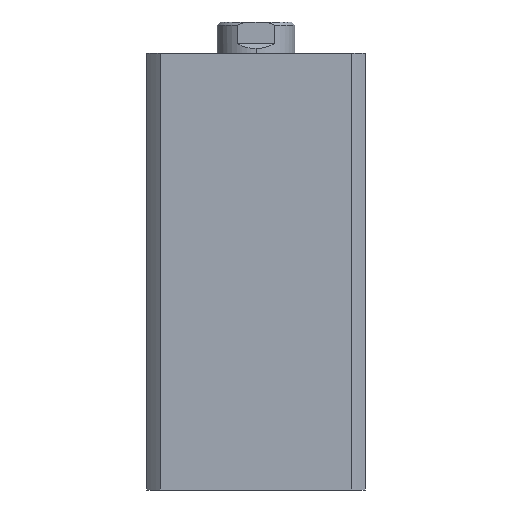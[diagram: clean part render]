
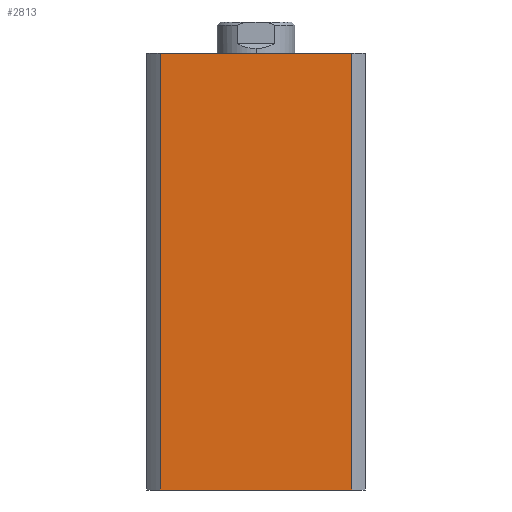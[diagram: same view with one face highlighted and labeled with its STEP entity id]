
A CAD part, left-side view. The second image highlights one B-rep face of the part: STEP entity #2813.
In plain terms, the highlighted planar face has unit normal (-1, 0, 0).
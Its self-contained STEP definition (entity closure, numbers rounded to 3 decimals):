
#185 = VERTEX_POINT ( 'NONE', #3022 ) ;
#400 = FACE_OUTER_BOUND ( 'NONE', #4704, .T. ) ;
#510 = LINE ( 'NONE', #790, #516 ) ;
#514 = LINE ( 'NONE', #789, #520 ) ;
#515 = LINE ( 'NONE', #794, #518 ) ;
#516 = VECTOR ( 'NONE', #786, 1000. ) ;
#518 = VECTOR ( 'NONE', #796, 1000. ) ;
#520 = VECTOR ( 'NONE', #797, 1000. ) ;
#560 = LINE ( 'NONE', #945, #562 ) ;
#562 = VECTOR ( 'NONE', #944, 1000. ) ;
#684 = VERTEX_POINT ( 'NONE', #3017 ) ;
#786 = DIRECTION ( 'NONE',  ( 0., 0., -1. ) ) ;
#789 = CARTESIAN_POINT ( 'NONE',  ( -35., 30.615, 140. ) ) ;
#790 = CARTESIAN_POINT ( 'NONE',  ( -35., -30.615, 140. ) ) ;
#794 = CARTESIAN_POINT ( 'NONE',  ( -35., 0., 0. ) ) ;
#796 = DIRECTION ( 'NONE',  ( 0., -1., 0. ) ) ;
#797 = DIRECTION ( 'NONE',  ( 0., 0., -1. ) ) ;
#944 = DIRECTION ( 'NONE',  ( 0., -1., 0. ) ) ;
#945 = CARTESIAN_POINT ( 'NONE',  ( -35., 0., 140. ) ) ;
#2266 = AXIS2_PLACEMENT_3D ( 'NONE', #4362, #4368, #4369 ) ;
#2813 = ADVANCED_FACE ( 'NONE', ( #400 ), #4365, .F. ) ;
#3017 = CARTESIAN_POINT ( 'NONE',  ( -35., -30.615, 140. ) ) ;
#3022 = CARTESIAN_POINT ( 'NONE',  ( -35., 30.615, 140. ) ) ;
#3173 = ORIENTED_EDGE ( 'NONE', *, *, #4783, .T. ) ;
#3193 = ORIENTED_EDGE ( 'NONE', *, *, #4816, .F. ) ;
#3194 = ORIENTED_EDGE ( 'NONE', *, *, #4781, .F. ) ;
#3195 = ORIENTED_EDGE ( 'NONE', *, *, #4782, .T. ) ;
#3632 = VERTEX_POINT ( 'NONE', #4510 ) ;
#3633 = VERTEX_POINT ( 'NONE', #4511 ) ;
#4362 = CARTESIAN_POINT ( 'NONE',  ( -35., 0., 140. ) ) ;
#4365 = PLANE ( 'NONE',  #2266 ) ;
#4368 = DIRECTION ( 'NONE',  ( 1., 0., 0. ) ) ;
#4369 = DIRECTION ( 'NONE',  ( 0., 1., 0. ) ) ;
#4510 = CARTESIAN_POINT ( 'NONE',  ( -35., 30.615, 0. ) ) ;
#4511 = CARTESIAN_POINT ( 'NONE',  ( -35., -30.615, 0. ) ) ;
#4704 = EDGE_LOOP ( 'NONE', ( #3195, #3194, #3193, #3173 ) ) ;
#4781 = EDGE_CURVE ( 'NONE', #684, #3633, #510, .T. ) ;
#4782 = EDGE_CURVE ( 'NONE', #3632, #3633, #515, .T. ) ;
#4783 = EDGE_CURVE ( 'NONE', #185, #3632, #514, .T. ) ;
#4816 = EDGE_CURVE ( 'NONE', #185, #684, #560, .T. ) ;
